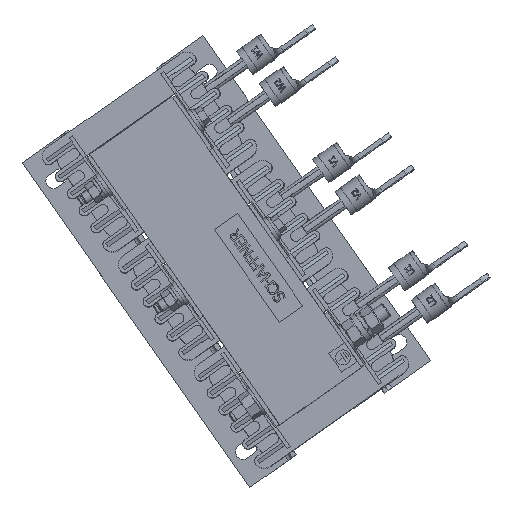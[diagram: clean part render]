
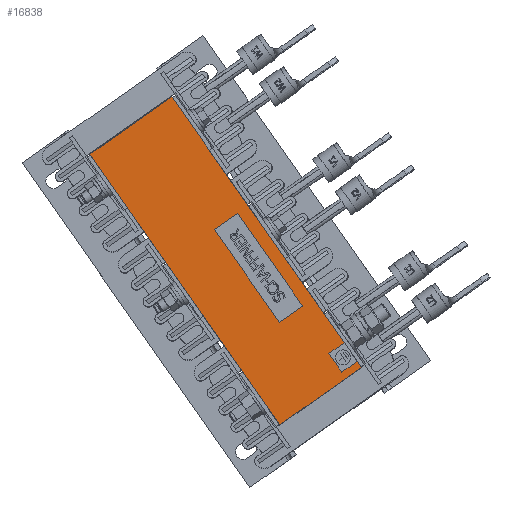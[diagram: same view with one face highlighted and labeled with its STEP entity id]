
A CAD part, left-side view. The second image highlights one B-rep face of the part: STEP entity #16838.
In plain terms, the highlighted planar face has unit normal (-1, 0.002, 0.002).
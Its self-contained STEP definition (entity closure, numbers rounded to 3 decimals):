
#16033=CARTESIAN_POINT('',(-138.211,162.014,-30.165));
#16034=VERTEX_POINT('',#16033);
#16041=CARTESIAN_POINT('',(-138.211,205.407,-60.595));
#16042=VERTEX_POINT('',#16041);
#16043=CARTESIAN_POINT('',(-138.211,205.407,-60.595));
#16044=DIRECTION('',(0.,-0.819,0.574));
#16045=VECTOR('',#16044,53.);
#16046=LINE('',#16043,#16045);
#16047=EDGE_CURVE('',#16042,#16034,#16046,.T.);
#16204=CARTESIAN_POINT('',(-137.707,262.492,113.115));
#16205=VERTEX_POINT('',#16204);
#16286=CARTESIAN_POINT('',(-137.707,305.885,82.684));
#16287=VERTEX_POINT('',#16286);
#16294=CARTESIAN_POINT('',(-137.707,262.492,113.115));
#16295=DIRECTION('',(0.,0.819,-0.574));
#16296=VECTOR('',#16295,53.);
#16297=LINE('',#16294,#16296);
#16298=EDGE_CURVE('',#16205,#16287,#16297,.T.);
#16751=CARTESIAN_POINT('',(-138.211,183.711,-45.38));
#16752=DIRECTION('',(-1.,0.002,0.002));
#16753=DIRECTION('',(0.,-0.819,0.574));
#16754=AXIS2_PLACEMENT_3D('',#16751,#16752,#16753);
#16755=PLANE('',#16754);
#16756=CARTESIAN_POINT('',(-138.165,179.387,-22.808));
#16757=VERTEX_POINT('',#16756);
#16758=CARTESIAN_POINT('',(-138.165,171.2,-17.066));
#16759=VERTEX_POINT('',#16758);
#16760=CARTESIAN_POINT('',(-138.165,179.387,-22.808));
#16761=DIRECTION('',(0.,-0.819,0.574));
#16762=VECTOR('',#16761,10.);
#16763=LINE('',#16760,#16762);
#16764=EDGE_CURVE('',#16757,#16759,#16763,.T.);
#16765=ORIENTED_EDGE('',*,*,#16764,.T.);
#16766=CARTESIAN_POINT('',(-138.165,171.2,-17.066));
#16767=DIRECTION('',(0.003,0.574,0.819));
#16768=VECTOR('',#16767,159.002);
#16769=LINE('',#16766,#16768);
#16770=EDGE_CURVE('',#16759,#16205,#16769,.T.);
#16771=ORIENTED_EDGE('',*,*,#16770,.T.);
#16772=ORIENTED_EDGE('',*,*,#16298,.T.);
#16773=CARTESIAN_POINT('',(-137.707,305.885,82.684));
#16774=DIRECTION('',(-0.003,-0.574,-0.819));
#16775=VECTOR('',#16774,175.0);
#16776=LINE('',#16773,#16775);
#16777=EDGE_CURVE('',#16287,#16042,#16776,.T.);
#16778=ORIENTED_EDGE('',*,*,#16777,.T.);
#16779=ORIENTED_EDGE('',*,*,#16047,.T.);
#16780=CARTESIAN_POINT('',(-138.199,164.31,-26.891));
#16781=VERTEX_POINT('',#16780);
#16782=CARTESIAN_POINT('',(-138.211,162.014,-30.165));
#16783=DIRECTION('',(0.003,0.574,0.819));
#16784=VECTOR('',#16783,3.998);
#16785=LINE('',#16782,#16784);
#16786=EDGE_CURVE('',#16034,#16781,#16785,.T.);
#16787=ORIENTED_EDGE('',*,*,#16786,.T.);
#16788=CARTESIAN_POINT('',(-138.199,172.497,-32.633));
#16789=VERTEX_POINT('',#16788);
#16790=CARTESIAN_POINT('',(-138.199,164.31,-26.891));
#16791=DIRECTION('',(0.,0.819,-0.574));
#16792=VECTOR('',#16791,10.);
#16793=LINE('',#16790,#16792);
#16794=EDGE_CURVE('',#16781,#16789,#16793,.T.);
#16795=ORIENTED_EDGE('',*,*,#16794,.T.);
#16796=CARTESIAN_POINT('',(-138.199,172.497,-32.633));
#16797=DIRECTION('',(0.003,0.574,0.819));
#16798=VECTOR('',#16797,12.);
#16799=LINE('',#16796,#16798);
#16800=EDGE_CURVE('',#16789,#16757,#16799,.T.);
#16801=ORIENTED_EDGE('',*,*,#16800,.T.);
#16802=EDGE_LOOP('',(#16765,#16771,#16772,#16778,#16779,#16787,#16795,#16801));
#16803=FACE_OUTER_BOUND('',#16802,.T.);
#16804=CARTESIAN_POINT('',(-137.91,239.946,42.818));
#16805=VERTEX_POINT('',#16804);
#16806=CARTESIAN_POINT('',(-137.91,227.665,51.43));
#16807=VERTEX_POINT('',#16806);
#16808=CARTESIAN_POINT('',(-137.91,239.946,42.818));
#16809=DIRECTION('',(0.,-0.819,0.574));
#16810=VECTOR('',#16809,15.);
#16811=LINE('',#16808,#16810);
#16812=EDGE_CURVE('',#16805,#16807,#16811,.T.);
#16813=ORIENTED_EDGE('',*,*,#16812,.T.);
#16814=CARTESIAN_POINT('',(-138.083,193.215,2.306));
#16815=VERTEX_POINT('',#16814);
#16816=CARTESIAN_POINT('',(-137.91,227.665,51.43));
#16817=DIRECTION('',(-0.003,-0.574,-0.819));
#16818=VECTOR('',#16817,60.0);
#16819=LINE('',#16816,#16818);
#16820=EDGE_CURVE('',#16807,#16815,#16819,.T.);
#16821=ORIENTED_EDGE('',*,*,#16820,.T.);
#16822=CARTESIAN_POINT('',(-138.083,205.497,-6.306));
#16823=VERTEX_POINT('',#16822);
#16824=CARTESIAN_POINT('',(-138.083,193.215,2.306));
#16825=DIRECTION('',(0.,0.819,-0.574));
#16826=VECTOR('',#16825,15.);
#16827=LINE('',#16824,#16826);
#16828=EDGE_CURVE('',#16815,#16823,#16827,.T.);
#16829=ORIENTED_EDGE('',*,*,#16828,.T.);
#16830=CARTESIAN_POINT('',(-138.083,205.497,-6.306));
#16831=DIRECTION('',(0.003,0.574,0.819));
#16832=VECTOR('',#16831,60.);
#16833=LINE('',#16830,#16832);
#16834=EDGE_CURVE('',#16823,#16805,#16833,.T.);
#16835=ORIENTED_EDGE('',*,*,#16834,.T.);
#16836=EDGE_LOOP('',(#16813,#16821,#16829,#16835));
#16837=FACE_BOUND('',#16836,.T.);
#16838=ADVANCED_FACE('',(#16803,#16837),#16755,.T.);
